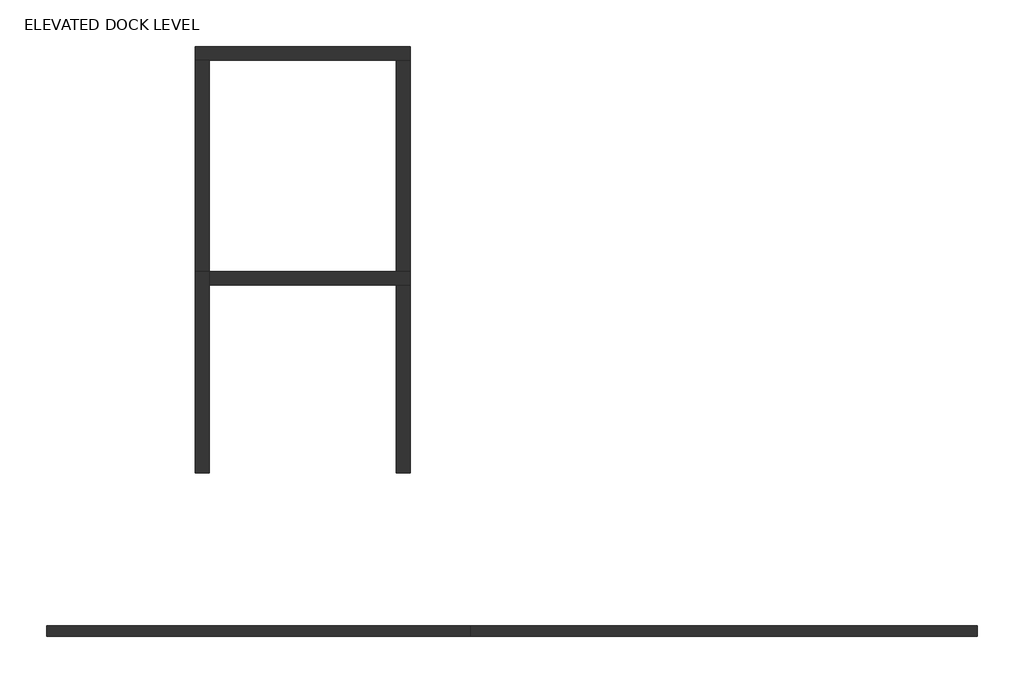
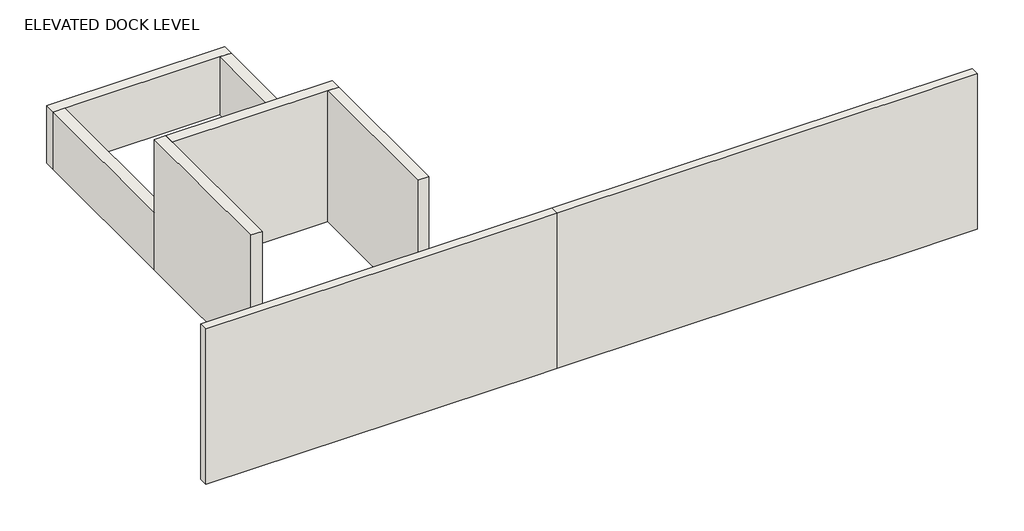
# One storey: 8 walls.
"""IFC4 building model written with IfcOpenShell, lengths in millimetres."""

from ifc_helpers import new_model, si_unit, frame, origin, place, context, project, spatial, polyline, outline, extrude, faceted_brep, element, save

model = new_model("IFC4")

# Units and contexts
model_context = context("Model", 3, world=origin())
ifc_project = project(units=[si_unit("LENGTHUNIT", "METRE", prefix="MILLI")], contexts=[model_context])

# Site, building, storey
site = spatial("IfcSite", under=ifc_project)
building = spatial("IfcBuilding", under=site)
storey = spatial("IfcBuildingStorey", under=building, Name="ELEVATED DOCK LEVEL", Elevation=290690.3)

# Walls
placement = place(None, origin())
element("IfcWall", 1, ObjectType="01-MASONRY-8", at=placement, inside=storey, context=model_context, shape_type="Brep", body=[
    faceted_brep([(30467.1363025, 220044.8414832, 290690.3), (22653.1654546, 220044.8414832, 290690.3), (22653.1654546, 220044.8414832, 294347.9), (30467.1363025, 220044.8414832, 294347.9), (30467.1363025, 219851.1664832, 290690.3), (30467.1363025, 219851.1664832, 294347.9), (30357.7680497, 219851.1664832, 294347.9), (30002.1680497, 219851.1664832, 294347.9), (22653.1654546, 219851.1664832, 294347.9), (22653.1654546, 219851.1664832, 290690.3), (30002.1680497, 219851.1664832, 290690.3), (30357.7680497, 219851.1664832, 290690.3)], [[[0, 1, 2, 3]], [[4, 5, 6, 7, 8, 9, 10, 11]], [[1, 0, 4, 11, 10, 9]], [[2, 1, 9, 8]], [[3, 2, 8, 7, 6, 5]], [[0, 3, 5, 4]]]),
])
element("IfcWall", 2, ObjectType="01-MASONRY-8", at=placement, inside=storey, context=model_context, shape_type="Brep", body=[
    faceted_brep([(39823.5654546, 220044.8414832, 290690.3), (30467.1363025, 220044.8414832, 290690.3), (30467.1363025, 220044.8414832, 294347.9), (39823.5654546, 220044.8414832, 294347.9), (39823.5654546, 219851.1664832, 290690.3), (39823.5654546, 219851.1664832, 294347.9), (37825.3680497, 219851.1664832, 294347.9), (37469.7680497, 219851.1664832, 294347.9), (30467.1363025, 219851.1664832, 294347.9), (30467.1363025, 219851.1664832, 290690.3), (37469.7680497, 219851.1664832, 290690.3), (37825.3680497, 219851.1664832, 290690.3)], [[[0, 1, 2, 3]], [[4, 5, 6, 7, 8, 9, 10, 11]], [[1, 0, 4, 11, 10, 9]], [[2, 1, 9, 8]], [[3, 2, 8, 7, 6, 5]], [[0, 3, 5, 4]]]),
])
element("IfcWall", 3, ObjectType="8\" Cast in Place + Wood Cladding", at=placement, inside=storey, context=model_context, shape_type="Brep", body=[
    faceted_brep([(25650.8728313, 222866.5454803, 290690.3), (25650.8728313, 226334.7909796, 290690.3), (25650.8728313, 226588.7909796, 290690.3), (25650.8728313, 226588.7909796, 292051.74), (25650.8728313, 226588.7909796, 293768.78), (25650.8728313, 226334.7909796, 293768.78), (25650.8728313, 222866.5454803, 293768.78), (25396.8728313, 222866.5454803, 290690.3), (25396.8728313, 222866.5454803, 293768.78), (25396.8728313, 226588.7909796, 293768.78), (25396.8728313, 226588.7909796, 292051.74), (25396.8728313, 226588.7909796, 290690.3)], [[[0, 1, 2, 3, 4, 5, 6]], [[7, 8, 9, 10, 11]], [[2, 1, 0, 7, 11]], [[6, 5, 4, 9, 8]], [[0, 6, 8, 7]], [[2, 11, 10, 9, 4, 3]]]),
])
element("IfcWall", 4, ObjectType="8\" Cast in Place + Wood Cladding", at=placement, inside=storey, context=model_context, shape_type="Brep", body=[
    faceted_brep([(25650.8728313, 226334.7909796, 290690.3), (29105.2728313, 226334.7909796, 290690.3), (29359.2728313, 226334.7909796, 290690.3), (29359.2728313, 226334.7909796, 293768.78), (29105.2728313, 226334.7909796, 293768.78), (25650.8728313, 226334.7909796, 293768.78), (25650.8728313, 226588.7909796, 290690.3), (25650.8728313, 226588.7909796, 293768.78), (29359.2728313, 226588.7909796, 293768.78), (29359.2728313, 226588.7909796, 292051.74), (29359.2728313, 226588.7909796, 290690.3), (29105.2728313, 226588.7909796, 290690.3)], [[[0, 1, 2, 3, 4, 5]], [[6, 7, 8, 9, 10, 11]], [[2, 1, 0, 6, 11, 10]], [[5, 4, 3, 8, 7]], [[0, 5, 7, 6]], [[3, 2, 10, 9, 8]]]),
])
element("IfcWall", 5, ObjectType="8\" Cast in Place + Wood Cladding", at=placement, inside=storey, context=model_context, shape_type="SweptSolid", body=[
    extrude(outline(polyline([(29105.2728313, 222866.5454803), (29105.2728313, 226334.7909796), (29359.2728313, 226334.7909796), (29359.2728313, 222866.5454803), (29105.2728313, 222866.5454803)])), frame((0.0, 0.0, 290690.3), z_axis=(0.0, 0.0, 1.0), x_axis=(1.0, 0.0, 0.0)), (0.0, 0.0, 1.0), 3078.48),
])
element("IfcWall", 6, ObjectType="8\" Cast in Place + Wood Cladding", at=placement, inside=storey, context=model_context, shape_type="Brep", body=[
    faceted_brep([(25396.8728313, 230485.7703252, 290690.3), (25650.8728313, 230485.7703252, 290690.3), (29105.2728313, 230485.7703252, 290690.3), (29359.2728313, 230485.7703252, 290690.3), (29359.2728313, 230485.7703252, 292051.74), (29105.2728313, 230485.7703252, 292051.74), (25650.8728313, 230485.7703252, 292051.74), (25396.8728313, 230485.7703252, 292051.74), (25396.8728313, 230739.7703252, 290690.3), (25396.8728313, 230739.7703252, 292051.74), (29359.2728313, 230739.7703252, 292051.74), (29359.2728313, 230739.7703252, 290690.3)], [[[0, 1, 2, 3, 4, 5, 6, 7]], [[8, 9, 10, 11]], [[3, 2, 1, 0, 8, 11]], [[7, 6, 5, 4, 10, 9]], [[4, 3, 11, 10]], [[0, 7, 9, 8]]]),
])
element("IfcWall", 7, ObjectType="8\" Cast in Place + Wood Cladding", at=placement, inside=storey, context=model_context, shape_type="SweptSolid", body=[
    extrude(outline(polyline([(29105.2728313, 226588.7909796), (29105.2728313, 230485.7703252), (29359.2728313, 230485.7703252), (29359.2728313, 226588.7909796), (29105.2728313, 226588.7909796)])), frame((0.0, 0.0, 290690.3), z_axis=(0.0, 0.0, 1.0), x_axis=(1.0, 0.0, 0.0)), (0.0, 0.0, 1.0), 1361.44),
])
element("IfcWall", 8, ObjectType="8\" Cast in Place + Wood Cladding", at=placement, inside=storey, context=model_context, shape_type="SweptSolid", body=[
    extrude(outline(polyline([(25650.8728313, 230485.7703252), (25650.8728313, 226588.7909796), (25396.8728313, 226588.7909796), (25396.8728313, 230485.7703252), (25650.8728313, 230485.7703252)])), frame((0.0, 0.0, 290690.3), z_axis=(0.0, 0.0, 1.0), x_axis=(1.0, 0.0, 0.0)), (0.0, 0.0, 1.0), 1361.44),
])

save(model, "model.ifc")
